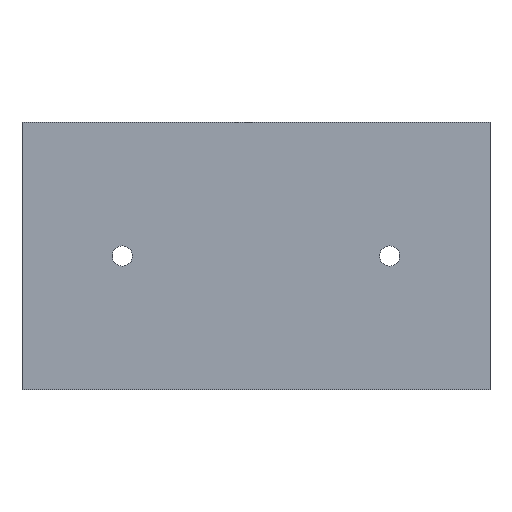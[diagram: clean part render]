
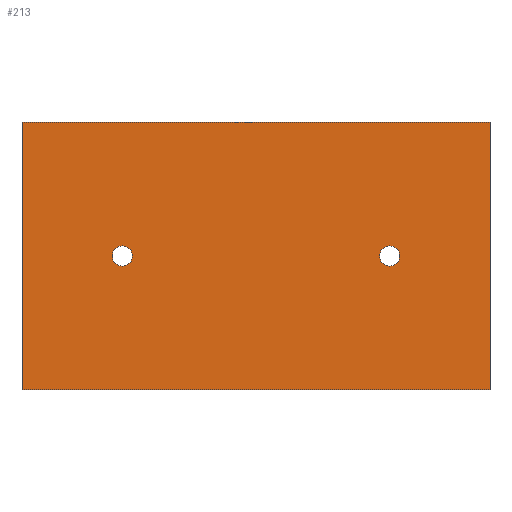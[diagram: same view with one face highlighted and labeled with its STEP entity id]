
A CAD part, top view. The second image highlights one B-rep face of the part: STEP entity #213.
In plain terms, the highlighted planar face has unit normal (0, 0, 1).
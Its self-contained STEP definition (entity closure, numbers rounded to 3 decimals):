
#24 = VERTEX_POINT('',#25);
#25 = CARTESIAN_POINT('',(-70.,-40.,24.));
#32 = PLANE('',#33);
#33 = AXIS2_PLACEMENT_3D('',#34,#35,#36);
#34 = CARTESIAN_POINT('',(-70.,-40.,16.));
#35 = DIRECTION('',(1.,0.,0.));
#36 = DIRECTION('',(0.,0.,1.));
#44 = PLANE('',#45);
#45 = AXIS2_PLACEMENT_3D('',#46,#47,#48);
#46 = CARTESIAN_POINT('',(-70.,-40.,16.));
#47 = DIRECTION('',(0.,1.,0.));
#48 = DIRECTION('',(0.,0.,1.));
#85 = VERTEX_POINT('',#86);
#86 = CARTESIAN_POINT('',(-70.,40.,24.));
#100 = PLANE('',#101);
#101 = AXIS2_PLACEMENT_3D('',#102,#103,#104);
#102 = CARTESIAN_POINT('',(-70.,40.,16.));
#103 = DIRECTION('',(0.,1.,0.));
#104 = DIRECTION('',(0.,0.,1.));
#112 = EDGE_CURVE('',#24,#85,#113,.T.);
#113 = SURFACE_CURVE('',#114,(#118,#125),.PCURVE_S1.);
#114 = LINE('',#115,#116);
#115 = CARTESIAN_POINT('',(-70.,-40.,24.));
#116 = VECTOR('',#117,1.);
#117 = DIRECTION('',(0.,1.,0.));
#118 = PCURVE('',#32,#119);
#119 = DEFINITIONAL_REPRESENTATION('',(#120),#124);
#120 = LINE('',#121,#122);
#121 = CARTESIAN_POINT('',(8.,0.));
#122 = VECTOR('',#123,1.);
#123 = DIRECTION('',(0.,-1.));
#124 = ( GEOMETRIC_REPRESENTATION_CONTEXT(2) 
PARAMETRIC_REPRESENTATION_CONTEXT() REPRESENTATION_CONTEXT('2D SPACE',''
  ) );
#125 = PCURVE('',#126,#131);
#126 = PLANE('',#127);
#127 = AXIS2_PLACEMENT_3D('',#128,#129,#130);
#128 = CARTESIAN_POINT('',(-70.,-40.,24.));
#129 = DIRECTION('',(0.,0.,1.));
#130 = DIRECTION('',(1.,0.,0.));
#131 = DEFINITIONAL_REPRESENTATION('',(#132),#136);
#132 = LINE('',#133,#134);
#133 = CARTESIAN_POINT('',(0.,0.));
#134 = VECTOR('',#135,1.);
#135 = DIRECTION('',(0.,1.));
#136 = ( GEOMETRIC_REPRESENTATION_CONTEXT(2) 
PARAMETRIC_REPRESENTATION_CONTEXT() REPRESENTATION_CONTEXT('2D SPACE',''
  ) );
#165 = EDGE_CURVE('',#24,#166,#168,.T.);
#166 = VERTEX_POINT('',#167);
#167 = CARTESIAN_POINT('',(70.,-40.,24.));
#168 = SURFACE_CURVE('',#169,(#173,#180),.PCURVE_S1.);
#169 = LINE('',#170,#171);
#170 = CARTESIAN_POINT('',(-70.,-40.,24.));
#171 = VECTOR('',#172,1.);
#172 = DIRECTION('',(1.,0.,0.));
#173 = PCURVE('',#44,#174);
#174 = DEFINITIONAL_REPRESENTATION('',(#175),#179);
#175 = LINE('',#176,#177);
#176 = CARTESIAN_POINT('',(8.,0.));
#177 = VECTOR('',#178,1.);
#178 = DIRECTION('',(0.,1.));
#179 = ( GEOMETRIC_REPRESENTATION_CONTEXT(2) 
PARAMETRIC_REPRESENTATION_CONTEXT() REPRESENTATION_CONTEXT('2D SPACE',''
  ) );
#180 = PCURVE('',#126,#181);
#181 = DEFINITIONAL_REPRESENTATION('',(#182),#186);
#182 = LINE('',#183,#184);
#183 = CARTESIAN_POINT('',(0.,0.));
#184 = VECTOR('',#185,1.);
#185 = DIRECTION('',(1.,0.));
#186 = ( GEOMETRIC_REPRESENTATION_CONTEXT(2) 
PARAMETRIC_REPRESENTATION_CONTEXT() REPRESENTATION_CONTEXT('2D SPACE',''
  ) );
#202 = PLANE('',#203);
#203 = AXIS2_PLACEMENT_3D('',#204,#205,#206);
#204 = CARTESIAN_POINT('',(70.,-40.,16.));
#205 = DIRECTION('',(1.,0.,0.));
#206 = DIRECTION('',(0.,0.,1.));
#213 = ADVANCED_FACE('',(#214,#262,#293),#126,.T.);
#214 = FACE_BOUND('',#215,.T.);
#215 = EDGE_LOOP('',(#216,#217,#218,#241));
#216 = ORIENTED_EDGE('',*,*,#112,.F.);
#217 = ORIENTED_EDGE('',*,*,#165,.T.);
#218 = ORIENTED_EDGE('',*,*,#219,.T.);
#219 = EDGE_CURVE('',#166,#220,#222,.T.);
#220 = VERTEX_POINT('',#221);
#221 = CARTESIAN_POINT('',(70.,40.,24.));
#222 = SURFACE_CURVE('',#223,(#227,#234),.PCURVE_S1.);
#223 = LINE('',#224,#225);
#224 = CARTESIAN_POINT('',(70.,-40.,24.));
#225 = VECTOR('',#226,1.);
#226 = DIRECTION('',(0.,1.,0.));
#227 = PCURVE('',#126,#228);
#228 = DEFINITIONAL_REPRESENTATION('',(#229),#233);
#229 = LINE('',#230,#231);
#230 = CARTESIAN_POINT('',(140.,0.));
#231 = VECTOR('',#232,1.);
#232 = DIRECTION('',(0.,1.));
#233 = ( GEOMETRIC_REPRESENTATION_CONTEXT(2) 
PARAMETRIC_REPRESENTATION_CONTEXT() REPRESENTATION_CONTEXT('2D SPACE',''
  ) );
#234 = PCURVE('',#202,#235);
#235 = DEFINITIONAL_REPRESENTATION('',(#236),#240);
#236 = LINE('',#237,#238);
#237 = CARTESIAN_POINT('',(8.,0.));
#238 = VECTOR('',#239,1.);
#239 = DIRECTION('',(0.,-1.));
#240 = ( GEOMETRIC_REPRESENTATION_CONTEXT(2) 
PARAMETRIC_REPRESENTATION_CONTEXT() REPRESENTATION_CONTEXT('2D SPACE',''
  ) );
#241 = ORIENTED_EDGE('',*,*,#242,.F.);
#242 = EDGE_CURVE('',#85,#220,#243,.T.);
#243 = SURFACE_CURVE('',#244,(#248,#255),.PCURVE_S1.);
#244 = LINE('',#245,#246);
#245 = CARTESIAN_POINT('',(-70.,40.,24.));
#246 = VECTOR('',#247,1.);
#247 = DIRECTION('',(1.,0.,0.));
#248 = PCURVE('',#126,#249);
#249 = DEFINITIONAL_REPRESENTATION('',(#250),#254);
#250 = LINE('',#251,#252);
#251 = CARTESIAN_POINT('',(0.,80.));
#252 = VECTOR('',#253,1.);
#253 = DIRECTION('',(1.,0.));
#254 = ( GEOMETRIC_REPRESENTATION_CONTEXT(2) 
PARAMETRIC_REPRESENTATION_CONTEXT() REPRESENTATION_CONTEXT('2D SPACE',''
  ) );
#255 = PCURVE('',#100,#256);
#256 = DEFINITIONAL_REPRESENTATION('',(#257),#261);
#257 = LINE('',#258,#259);
#258 = CARTESIAN_POINT('',(8.,0.));
#259 = VECTOR('',#260,1.);
#260 = DIRECTION('',(0.,1.));
#261 = ( GEOMETRIC_REPRESENTATION_CONTEXT(2) 
PARAMETRIC_REPRESENTATION_CONTEXT() REPRESENTATION_CONTEXT('2D SPACE',''
  ) );
#262 = FACE_BOUND('',#263,.T.);
#263 = EDGE_LOOP('',(#264));
#264 = ORIENTED_EDGE('',*,*,#265,.F.);
#265 = EDGE_CURVE('',#266,#266,#268,.T.);
#266 = VERTEX_POINT('',#267);
#267 = CARTESIAN_POINT('',(-36.985,0.,24.));
#268 = SURFACE_CURVE('',#269,(#274,#281),.PCURVE_S1.);
#269 = CIRCLE('',#270,3.015);
#270 = AXIS2_PLACEMENT_3D('',#271,#272,#273);
#271 = CARTESIAN_POINT('',(-40.,0.,24.));
#272 = DIRECTION('',(0.,0.,1.));
#273 = DIRECTION('',(1.,0.,0.));
#274 = PCURVE('',#126,#275);
#275 = DEFINITIONAL_REPRESENTATION('',(#276),#280);
#276 = CIRCLE('',#277,3.015);
#277 = AXIS2_PLACEMENT_2D('',#278,#279);
#278 = CARTESIAN_POINT('',(30.,40.));
#279 = DIRECTION('',(1.,0.));
#280 = ( GEOMETRIC_REPRESENTATION_CONTEXT(2) 
PARAMETRIC_REPRESENTATION_CONTEXT() REPRESENTATION_CONTEXT('2D SPACE',''
  ) );
#281 = PCURVE('',#282,#287);
#282 = CYLINDRICAL_SURFACE('',#283,3.015);
#283 = AXIS2_PLACEMENT_3D('',#284,#285,#286);
#284 = CARTESIAN_POINT('',(-40.,0.,16.));
#285 = DIRECTION('',(-0.,-0.,-1.));
#286 = DIRECTION('',(1.,0.,0.));
#287 = DEFINITIONAL_REPRESENTATION('',(#288),#292);
#288 = LINE('',#289,#290);
#289 = CARTESIAN_POINT('',(-0.,-8.));
#290 = VECTOR('',#291,1.);
#291 = DIRECTION('',(-1.,0.));
#292 = ( GEOMETRIC_REPRESENTATION_CONTEXT(2) 
PARAMETRIC_REPRESENTATION_CONTEXT() REPRESENTATION_CONTEXT('2D SPACE',''
  ) );
#293 = FACE_BOUND('',#294,.T.);
#294 = EDGE_LOOP('',(#295));
#295 = ORIENTED_EDGE('',*,*,#296,.F.);
#296 = EDGE_CURVE('',#297,#297,#299,.T.);
#297 = VERTEX_POINT('',#298);
#298 = CARTESIAN_POINT('',(43.015,0.,24.));
#299 = SURFACE_CURVE('',#300,(#305,#312),.PCURVE_S1.);
#300 = CIRCLE('',#301,3.015);
#301 = AXIS2_PLACEMENT_3D('',#302,#303,#304);
#302 = CARTESIAN_POINT('',(40.,0.,24.));
#303 = DIRECTION('',(0.,0.,1.));
#304 = DIRECTION('',(1.,0.,0.));
#305 = PCURVE('',#126,#306);
#306 = DEFINITIONAL_REPRESENTATION('',(#307),#311);
#307 = CIRCLE('',#308,3.015);
#308 = AXIS2_PLACEMENT_2D('',#309,#310);
#309 = CARTESIAN_POINT('',(110.,40.));
#310 = DIRECTION('',(1.,0.));
#311 = ( GEOMETRIC_REPRESENTATION_CONTEXT(2) 
PARAMETRIC_REPRESENTATION_CONTEXT() REPRESENTATION_CONTEXT('2D SPACE',''
  ) );
#312 = PCURVE('',#313,#318);
#313 = CYLINDRICAL_SURFACE('',#314,3.015);
#314 = AXIS2_PLACEMENT_3D('',#315,#316,#317);
#315 = CARTESIAN_POINT('',(40.,0.,16.));
#316 = DIRECTION('',(-0.,-0.,-1.));
#317 = DIRECTION('',(1.,0.,0.));
#318 = DEFINITIONAL_REPRESENTATION('',(#319),#323);
#319 = LINE('',#320,#321);
#320 = CARTESIAN_POINT('',(-0.,-8.));
#321 = VECTOR('',#322,1.);
#322 = DIRECTION('',(-1.,0.));
#323 = ( GEOMETRIC_REPRESENTATION_CONTEXT(2) 
PARAMETRIC_REPRESENTATION_CONTEXT() REPRESENTATION_CONTEXT('2D SPACE',''
  ) );
